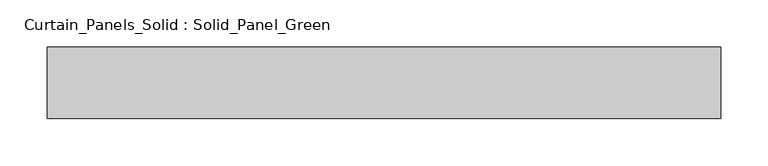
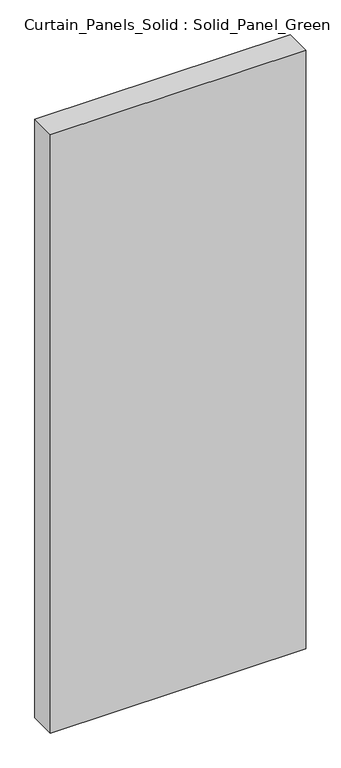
"""IFC4 building model written with IfcOpenShell, lengths in millimetres: plate geometry, Curtain_Panels_Solid : Solid_Panel_Green."""

from ifc_helpers import new_model, si_unit, origin, origin_with_axes, place, context, project, spatial, polyline, outline, extrude, source, transform, mapped, element, save


def curtain_panels_solid_solid_panel_green_b8c23153(model_context):
    return source(origin(), model_context, "Body", "SweptSolid", [
        extrude(outline(polyline([(355.0, -25.0), (-355.0, -25.0), (-355.0, 50.0), (355.0, 50.0), (355.0, -25.0)])), origin_with_axes(), (0.0, 0.0, 1.0), 1760.0),
    ])


if __name__ == "__main__":
    model = new_model("IFC4")
    model_context = context("Model", 3, world=origin())
    ifc_project = project(units=[si_unit("LENGTHUNIT", "METRE", prefix="MILLI")], contexts=[model_context])
    site = spatial("IfcSite", under=ifc_project)
    building = spatial("IfcBuilding", under=site)
    placement = place(None, origin())
    curtain_panels_solid_solid_panel_green_shape = curtain_panels_solid_solid_panel_green_b8c23153(model_context)
    element("IfcPlate", 1, ObjectType="Curtain_Panels_Solid : Solid_Panel_Green", at=placement, inside=building, context=model_context, shape_type="MappedRepresentation", body=[
        mapped(curtain_panels_solid_solid_panel_green_shape, transform((0.0, 0.0, 0.0), x_axis=(1.0, 0.0, 0.0), y_axis=(0.0, 1.0, 0.0), z_axis=(0.0, 0.0, 1.0))),
    ])
    save(model, "model.ifc")
